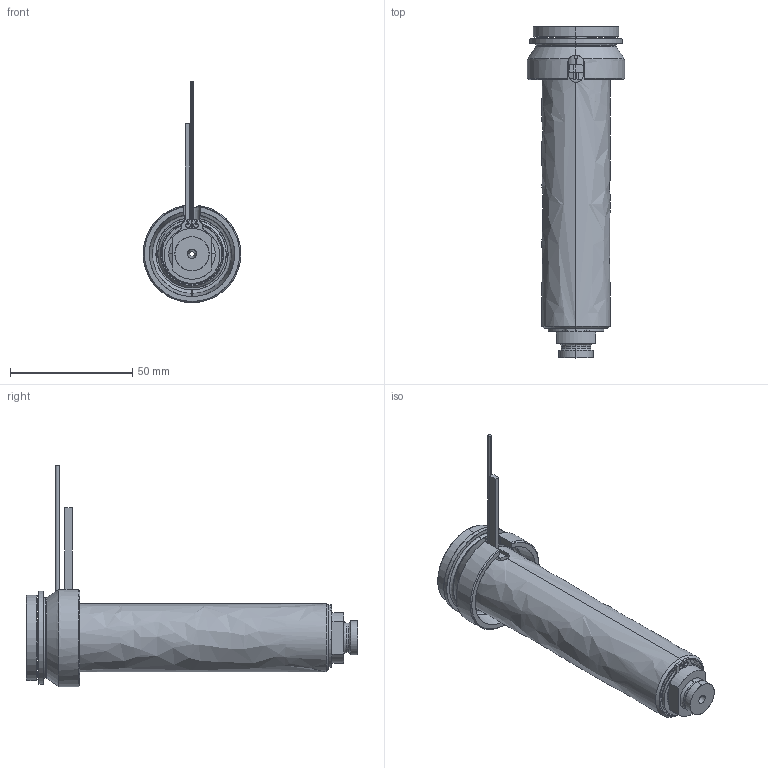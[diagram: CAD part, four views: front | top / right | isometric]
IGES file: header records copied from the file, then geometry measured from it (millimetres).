
Start section: SolidWorks IGES file using analytic representation for surfaces
Global section: file name: C:\Documents and Settings\ws-20\Desktop\TEMPORANEA\UGBE4003-S-A-5 [Ød-2.0 P-0 ØC-09].IGS; native system: SolidWorks 2012; preprocessor: SolidWorks 2012; author: ws-20; date: 120306.123644; units: millimetre
Bounding box: 40 x 136 x 90.65 mm (x, y, z)
Surface area: 41327.9 mm2 (no closed solid volume)
Topology: 0 solids, 0 shells, 105 faces, 1773 edges, 1773 vertices
Faces by surface type: revolution 66, bspline 39
